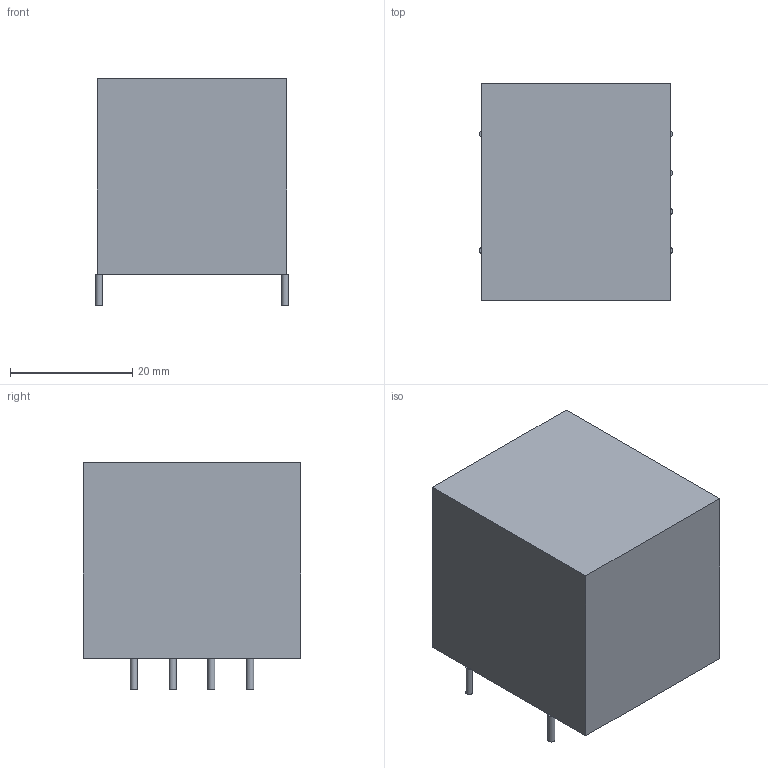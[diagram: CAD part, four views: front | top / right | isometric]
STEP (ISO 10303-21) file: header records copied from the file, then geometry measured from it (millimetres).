
FILE_DESCRIPTION(('FreeCAD Model'),'2;1');
FILE_NAME('/var/www/3D/0T/715144.1.6.stp','2022-10-02T09:25:11',( 'Author'),(''),'Open CASCADE STEP processor 6.9','FreeCAD','Unknown' );
FILE_SCHEMA(('AUTOMOTIVE_DESIGN { 1 0 10303 214 1 1 1 1 }'));
Length unit declared in the file: millimetre
Products named in the file (3): ASSEMBLY; Body; Leads
Assembly tree (2 placements, depth 2):
  ASSEMBLY
    Body
    Leads
Bounding box: 31.63 x 35.56 x 37.2 mm (x, y, z)
Volume: 35417.5 mm3; surface area: 6600.9 mm2
Topology: 7 solids, 7 shells, 24 faces, 30 edges, 20 vertices
Faces by surface type: plane 18, cylinder 6
Full cylindrical faces by diameter (mm): 1.15 x6
Entity records: 977 total; most frequent: DIRECTION 156, CARTESIAN_POINT 137, LINE 66, VECTOR 66, ORIENTED_EDGE 60, PCURVE 60, DEFINITIONAL_REPRESENTATION 60, AXIS2_PLACEMENT_3D 39
